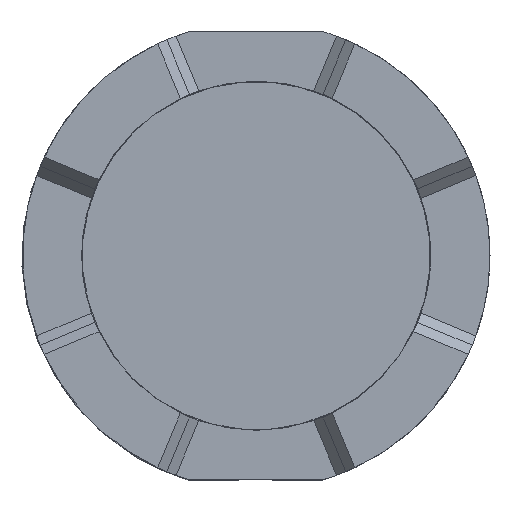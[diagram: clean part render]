
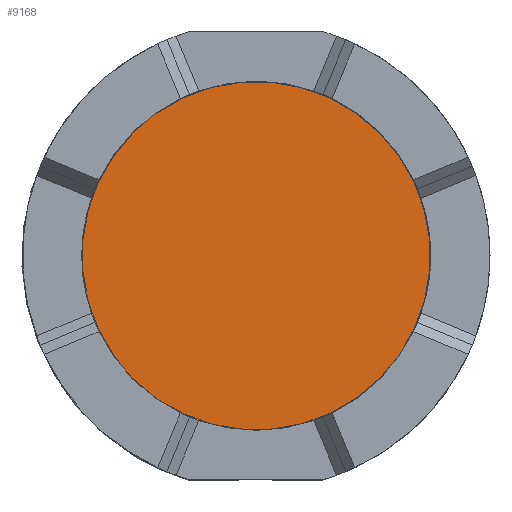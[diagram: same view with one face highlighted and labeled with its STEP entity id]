
A CAD part, left-side view. The second image highlights one B-rep face of the part: STEP entity #9168.
In plain terms, the highlighted planar face has unit normal (-1, 0, 0).
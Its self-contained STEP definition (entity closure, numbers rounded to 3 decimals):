
#1160 = DIRECTION ( 'NONE',  ( 0., -0.425, -0.905 ) ) ;
#2448 = AXIS2_PLACEMENT_3D ( 'NONE', #19678, #3934, #11839 ) ;
#3934 = DIRECTION ( 'NONE',  ( -1., 0., 0. ) ) ;
#6745 = EDGE_CURVE ( 'NONE', #12621, #8378, #12502, .T. ) ;
#7493 = DIRECTION ( 'NONE',  ( 1., 0., 0. ) ) ;
#8378 = VERTEX_POINT ( 'NONE', #16479 ) ;
#8684 = AXIS2_PLACEMENT_3D ( 'NONE', #13325, #19883, #16687 ) ;
#8885 = CIRCLE ( 'NONE', #8684, 17.5 ) ;
#9168 = ADVANCED_FACE ( 'NONE', ( #16219 ), #17012, .F. ) ;
#10066 = AXIS2_PLACEMENT_3D ( 'NONE', #10566, #7493, #1160 ) ;
#10566 = CARTESIAN_POINT ( 'NONE',  ( -12.933, 15.839, -7.442 ) ) ;
#11839 = DIRECTION ( 'NONE',  ( 0., 0.425, 0.905 ) ) ;
#12238 = CARTESIAN_POINT ( 'NONE',  ( -12.933, -7.442, -15.839 ) ) ;
#12502 = CIRCLE ( 'NONE', #2448, 17.5 ) ;
#12621 = VERTEX_POINT ( 'NONE', #12238 ) ;
#13149 = ORIENTED_EDGE ( 'NONE', *, *, #16801, .T. ) ;
#13325 = CARTESIAN_POINT ( 'NONE',  ( -12.933, 0., 0. ) ) ;
#13917 = EDGE_LOOP ( 'NONE', ( #13149, #17656 ) ) ;
#16219 = FACE_OUTER_BOUND ( 'NONE', #13917, .T. ) ;
#16479 = CARTESIAN_POINT ( 'NONE',  ( -12.933, 7.442, 15.839 ) ) ;
#16687 = DIRECTION ( 'NONE',  ( 0., 0.425, 0.905 ) ) ;
#16801 = EDGE_CURVE ( 'NONE', #8378, #12621, #8885, .T. ) ;
#17012 = PLANE ( 'NONE',  #10066 ) ;
#17656 = ORIENTED_EDGE ( 'NONE', *, *, #6745, .T. ) ;
#19678 = CARTESIAN_POINT ( 'NONE',  ( -12.933, 0., 0. ) ) ;
#19883 = DIRECTION ( 'NONE',  ( -1., 0., 0. ) ) ;
